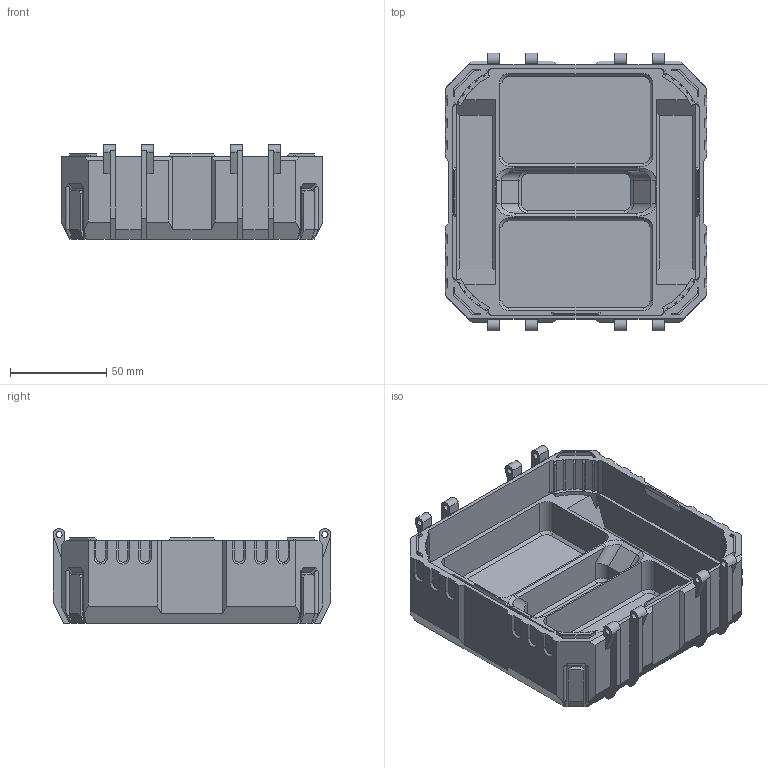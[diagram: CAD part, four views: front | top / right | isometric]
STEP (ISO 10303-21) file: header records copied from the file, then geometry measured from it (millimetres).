
FILE_DESCRIPTION(/* description */ (''),/* implementation_level */ '2;1');
FILE_NAME(/* name */ 'Pavo20BaseStd.step',/* time_stamp */ '2024-05-03T23:34:26+08:00',/* author */ (''),/* organization */ (''),/* preprocessor_version */ 'ST-DEVELOPER v20',/* originating_system */ 'Autodesk Translation Framework v12.20.1.177',/* authorisation */ '');
FILE_SCHEMA (('AUTOMOTIVE_DESIGN { 1 0 10303 214 3 1 1 }'));
Length unit declared in the file: millimetre
Products named in the file (1): Pavo20BaseStd
Bounding box: 136 x 144.4 x 49.2 mm (x, y, z)
Volume: 182507 mm3; surface area: 93435.3 mm2
Topology: 1 solids, 1 shells, 562 faces, 1566 edges, 1014 vertices
Faces by surface type: plane 404, cylinder 106, cone 44, bspline 8
Full cylindrical faces by diameter (mm): 3.2 x8
Entity records: 18083 total; most frequent: CARTESIAN_POINT 3427, ORIENTED_EDGE 3132, DIRECTION 2940, EDGE_CURVE 1566, LINE 1270, VECTOR 1270, VERTEX_POINT 1014, AXIS2_PLACEMENT_3D 835
